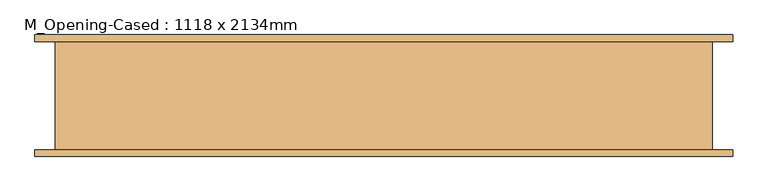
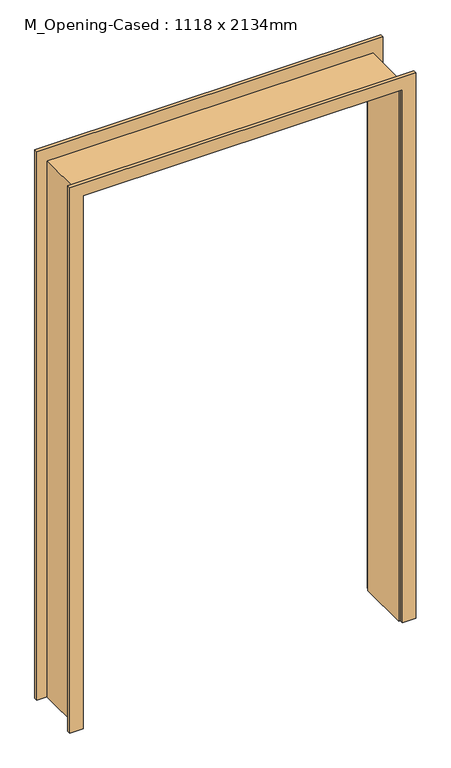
"""IFC4 building model written with IfcOpenShell, lengths in millimetres: door geometry, M_Opening-Cased : 1118 x 2134mm."""

from ifc_helpers import new_model, si_unit, frame, origin, place, context, project, spatial, polyline, outline, extrude, faceted_brep, source, transform, mapped, element, save


def m_opening_cased_1118_x_2134mm_5fbddd51(model_context):
    return source(origin(), model_context, "Body", "SolidModel", [
        extrude(outline(polyline([(0.0, -611.4386567), (2127.25, -611.4386567), (2127.25, 595.0613433), (0.0, 595.0613433), (0.0, 645.8613433), (2178.05, 645.8613433), (2178.05, -662.2386567), (0.0, -662.2386567), (0.0, -611.4386567)])), frame((0.0, -114.3, 0.0), z_axis=(0.0, 1.0, 0.0), x_axis=(0.0, 0.0, 1.0)), (0.0, 0.0, 1.0), 12.7),
        extrude(outline(polyline([(0.0, 645.8613433), (2190.75, 645.8613433), (2190.75, -662.2386567), (0.0, -662.2386567), (0.0, -611.4386567), (2127.25, -611.4386567), (2127.25, 595.0613433), (0.0, 595.0613433), (0.0, 645.8613433)])), frame((0.0, 101.6, 0.0), z_axis=(0.0, 1.0, 0.0), x_axis=(0.0, 0.0, 1.0)), (0.0, 0.0, 1.0), 12.7),
        faceted_brep([(588.7113433, 101.6, 0.0), (607.7613433, 101.6, 0.0), (607.7613433, -101.6, 0.0), (588.7113433, -101.6, 0.0), (588.7113433, 101.6, 2120.9), (607.7613433, 101.6, 2139.95), (607.7613433, -101.6, 2139.95), (588.7113433, -101.6, 2120.9), (-605.0886567, 101.6, 0.0), (-605.0886567, -101.6, 0.0), (-624.1386567, -101.6, 0.0), (-624.1386567, 101.6, 0.0), (-605.0886567, 101.6, 2120.9), (-605.0886567, -101.6, 2120.9), (-624.1386567, -101.6, 2139.95), (-624.1386567, 101.6, 2139.95)], [[[0, 1, 2, 3]], [[1, 0, 4, 5]], [[2, 1, 5, 6]], [[3, 2, 6, 7]], [[0, 3, 7, 4]], [[8, 9, 10, 11]], [[12, 13, 9, 8]], [[13, 14, 10, 9]], [[14, 15, 11, 10]], [[15, 12, 8, 11]], [[5, 4, 12, 15]], [[6, 5, 15, 14]], [[7, 6, 14, 13]], [[4, 7, 13, 12]]]),
    ])


if __name__ == "__main__":
    model = new_model("IFC4")
    model_context = context("Model", 3, world=origin())
    ifc_project = project(units=[si_unit("LENGTHUNIT", "METRE", prefix="MILLI")], contexts=[model_context])
    site = spatial("IfcSite", under=ifc_project)
    building = spatial("IfcBuilding", under=site)
    placement = place(None, origin())
    m_opening_cased_1118_x_2134mm_shape = m_opening_cased_1118_x_2134mm_5fbddd51(model_context)
    element("IfcDoor", 1, ObjectType="M_Opening-Cased : 1118 x 2134mm", at=placement, inside=building, context=model_context, shape_type="MappedRepresentation", body=[
        mapped(m_opening_cased_1118_x_2134mm_shape, transform((0.0, 0.0, 0.0), x_axis=(1.0, 0.0, 0.0), y_axis=(0.0, 1.0, 0.0), z_axis=(0.0, 0.0, 1.0))),
    ])
    save(model, "model.ifc")
